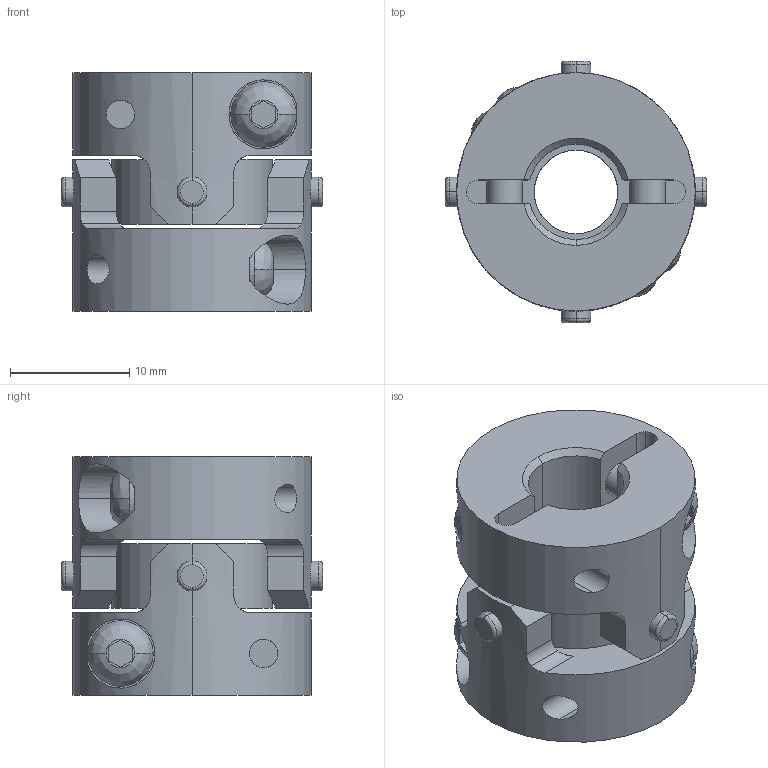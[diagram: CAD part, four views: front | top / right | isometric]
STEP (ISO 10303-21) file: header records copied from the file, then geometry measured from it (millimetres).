
FILE_DESCRIPTION((''),'2;1');
FILE_NAME('UA-20C-7×8.stp','2013-05-16T09:05:16',(''),(''),'AutoCAD STEP 2000i','AutoCAD 2000i',', , ');
FILE_SCHEMA(('CONFIG_CONTROL_DESIGN'));
Length unit declared in the file: millimetre
Products named in the file (8): UA-20C-7×7; 忣兜1; UA-2002-D07-1; BTN-M3; UA-2002-D07; UA-2002-D04-1; UA-2002-D04; UA20-SEN
Assembly tree (10 placements, depth 3):
  UA-20C-7×7
    忣兜1
    UA-2002-D07-1
      BTN-M3
    UA-2002-D07
      BTN-M3
    UA-2002-D04-1
      BTN-M3
    UA-2002-D04
      BTN-M3
    UA20-SEN
Bounding box: 21.89 x 21.89 x 20 mm (x, y, z)
Volume: 4279.8 mm3; surface area: 3815.6 mm2
Topology: 1 solids, 1 shells, 206 faces, 554 edges, 364 vertices
Faces by surface type: cylinder 96, plane 78, cone 16, bspline 8, torus 8
Entity records: 8035 total; most frequent: CARTESIAN_POINT 2679, ORIENTED_EDGE 1108, DIRECTION 1072, EDGE_CURVE 554, AXIS2_PLACEMENT_3D 413, VERTEX_POINT 364, VECTOR 246, LINE 246
